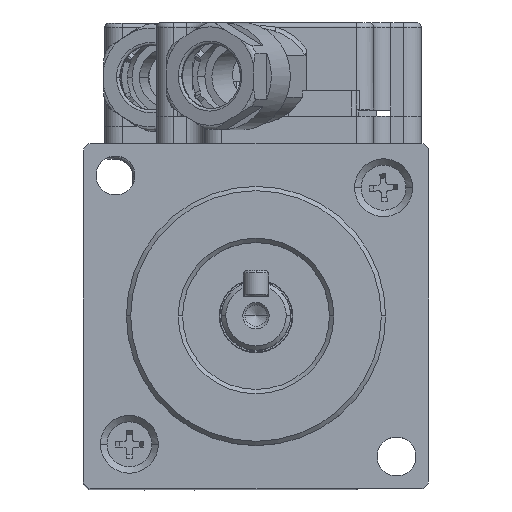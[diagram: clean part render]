
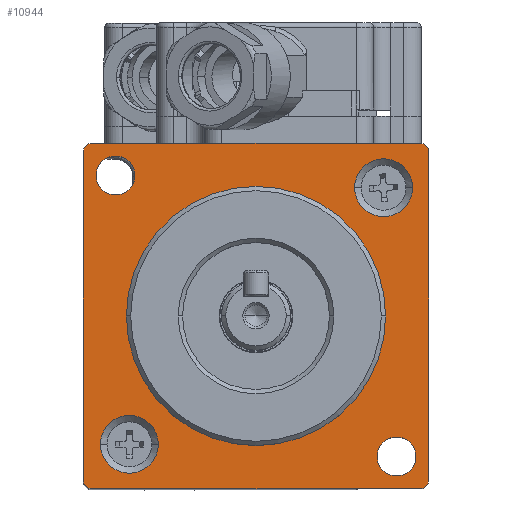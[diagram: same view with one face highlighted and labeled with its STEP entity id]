
A CAD part, top view. The second image highlights one B-rep face of the part: STEP entity #10944.
In plain terms, the highlighted planar face has unit normal (0, 0, 1).
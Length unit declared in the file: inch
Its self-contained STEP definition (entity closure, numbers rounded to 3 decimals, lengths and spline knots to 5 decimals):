
#10372=DIRECTION('',(-1.,0.,0.));
#10373=VECTOR('',#10372,1.49606);
#10374=CARTESIAN_POINT('',(0.74803,0.7874,
0.19685));
#10375=LINE('',#10374,#10373);
#10384=DIRECTION('',(0.,1.,0.));
#10385=VECTOR('',#10384,1.49606);
#10386=CARTESIAN_POINT('',(0.7874,-0.74803,
0.19685));
#10387=LINE('',#10386,#10385);
#10396=DIRECTION('',(1.,0.,0.));
#10397=VECTOR('',#10396,1.49606);
#10398=CARTESIAN_POINT('',(-0.74803,-0.7874,
0.19685));
#10399=LINE('',#10398,#10397);
#10408=DIRECTION('',(0.,-1.,0.));
#10409=VECTOR('',#10408,1.49606);
#10410=CARTESIAN_POINT('',(-0.7874,0.74803,
0.19685));
#10411=LINE('',#10410,#10409);
#10412=CARTESIAN_POINT('',(-0.74803,0.74803,
0.19685));
#10413=DIRECTION('',(0.,0.,-1.));
#10414=DIRECTION('',(-1.,0.,0.));
#10415=AXIS2_PLACEMENT_3D('',#10412,#10413,#10414);
#10417=CARTESIAN_POINT('',(0.74803,0.74803,
0.19685));
#10418=DIRECTION('',(0.,0.,-1.));
#10419=DIRECTION('',(0.,1.,0.));
#10420=AXIS2_PLACEMENT_3D('',#10417,#10418,#10419);
#10422=CARTESIAN_POINT('',(0.74803,-0.74803,
0.19685));
#10423=DIRECTION('',(0.,0.,-1.));
#10424=DIRECTION('',(1.,0.,0.));
#10425=AXIS2_PLACEMENT_3D('',#10422,#10423,#10424);
#10427=CARTESIAN_POINT('',(-0.74803,-0.74803,
0.19685));
#10428=DIRECTION('',(0.,0.,-1.));
#10429=DIRECTION('',(0.,-1.,0.));
#10430=AXIS2_PLACEMENT_3D('',#10427,#10428,#10429);
#10432=CARTESIAN_POINT('',(-0.57686,-0.58452,
0.19685));
#10433=DIRECTION('',(0.,0.,1.));
#10434=DIRECTION('',(1.,0.,0.));
#10435=AXIS2_PLACEMENT_3D('',#10432,#10433,#10434);
#10437=CARTESIAN_POINT('',(-0.57686,-0.58452,
0.19685));
#10438=DIRECTION('',(0.,0.,1.));
#10439=DIRECTION('',(-1.,0.,0.));
#10440=AXIS2_PLACEMENT_3D('',#10437,#10438,#10439);
#10442=CARTESIAN_POINT('',(0.58124,0.58452,
0.19685));
#10443=DIRECTION('',(0.,0.,1.));
#10444=DIRECTION('',(1.,0.,0.));
#10445=AXIS2_PLACEMENT_3D('',#10442,#10443,#10444);
#10447=CARTESIAN_POINT('',(0.58124,0.58452,
0.19685));
#10448=DIRECTION('',(0.,0.,1.));
#10449=DIRECTION('',(-1.,0.,0.));
#10450=AXIS2_PLACEMENT_3D('',#10447,#10448,#10449);
#10452=CARTESIAN_POINT('',(-0.64029,0.64029,
0.19685));
#10453=DIRECTION('',(0.,0.,1.));
#10454=DIRECTION('',(1.,0.,0.));
#10455=AXIS2_PLACEMENT_3D('',#10452,#10453,#10454);
#10457=CARTESIAN_POINT('',(-0.64029,0.64029,
0.19685));
#10458=DIRECTION('',(0.,0.,1.));
#10459=DIRECTION('',(-1.,0.,0.));
#10460=AXIS2_PLACEMENT_3D('',#10457,#10458,#10459);
#10462=CARTESIAN_POINT('',(0.64029,-0.64029,
0.19685));
#10463=DIRECTION('',(0.,0.,1.));
#10464=DIRECTION('',(1.,0.,0.));
#10465=AXIS2_PLACEMENT_3D('',#10462,#10463,#10464);
#10467=CARTESIAN_POINT('',(0.64029,-0.64029,
0.19685));
#10468=DIRECTION('',(0.,0.,1.));
#10469=DIRECTION('',(-1.,0.,0.));
#10470=AXIS2_PLACEMENT_3D('',#10467,#10468,#10469);
#10472=CARTESIAN_POINT('',(0.,0.,0.19685));
#10473=DIRECTION('',(0.,0.,1.));
#10474=DIRECTION('',(-1.,0.,0.));
#10475=AXIS2_PLACEMENT_3D('',#10472,#10473,#10474);
#10477=CARTESIAN_POINT('',(0.,0.,0.19685));
#10478=DIRECTION('',(0.,0.,1.));
#10479=DIRECTION('',(1.,0.,0.));
#10480=AXIS2_PLACEMENT_3D('',#10477,#10478,#10479);
#10664=CARTESIAN_POINT('',(-0.74803,0.7874,
0.19685));
#10665=VERTEX_POINT('',#10664);
#10666=CARTESIAN_POINT('',(-0.7874,0.74803,
0.19685));
#10667=VERTEX_POINT('',#10666);
#10668=CARTESIAN_POINT('',(0.74803,0.7874,
0.19685));
#10669=VERTEX_POINT('',#10668);
#10670=CARTESIAN_POINT('',(0.7874,0.74803,
0.19685));
#10671=VERTEX_POINT('',#10670);
#10672=CARTESIAN_POINT('',(0.7874,-0.74803,
0.19685));
#10673=VERTEX_POINT('',#10672);
#10674=CARTESIAN_POINT('',(0.74803,-0.7874,
0.19685));
#10675=VERTEX_POINT('',#10674);
#10676=CARTESIAN_POINT('',(-0.74803,-0.7874,
0.19685));
#10677=VERTEX_POINT('',#10676);
#10678=CARTESIAN_POINT('',(-0.7874,-0.74803,
0.19685));
#10679=VERTEX_POINT('',#10678);
#10680=CARTESIAN_POINT('',(-0.44497,-0.58452,
0.19685));
#10681=CARTESIAN_POINT('',(-0.70875,-0.58452,
0.19685));
#10682=VERTEX_POINT('',#10680);
#10683=VERTEX_POINT('',#10681);
#10684=CARTESIAN_POINT('',(0.71313,0.58452,
0.19685));
#10685=CARTESIAN_POINT('',(0.44935,0.58452,
0.19685));
#10686=VERTEX_POINT('',#10684);
#10687=VERTEX_POINT('',#10685);
#10688=CARTESIAN_POINT('',(-0.55171,0.64029,
0.19685));
#10689=CARTESIAN_POINT('',(-0.72888,0.64029,
0.19685));
#10690=VERTEX_POINT('',#10688);
#10691=VERTEX_POINT('',#10689);
#10692=CARTESIAN_POINT('',(0.72888,-0.64029,
0.19685));
#10693=CARTESIAN_POINT('',(0.55171,-0.64029,
0.19685));
#10694=VERTEX_POINT('',#10692);
#10695=VERTEX_POINT('',#10693);
#10696=CARTESIAN_POINT('',(-0.59055,0.,0.19685));
#10697=CARTESIAN_POINT('',(0.59055,0.,0.19685));
#10698=VERTEX_POINT('',#10696);
#10699=VERTEX_POINT('',#10697);
#10899=CARTESIAN_POINT('',(-0.74803,0.74803,
0.19685));
#10900=DIRECTION('',(0.,0.,1.));
#10901=DIRECTION('',(1.,0.,0.));
#10902=AXIS2_PLACEMENT_3D('',#10899,#10900,#10901);
#10903=PLANE('',#10902);
#10904=ORIENTED_EDGE('',*,*,#10795,.T.);
#10905=ORIENTED_EDGE('',*,*,#10810,.F.);
#10906=ORIENTED_EDGE('',*,*,#10824,.T.);
#10907=ORIENTED_EDGE('',*,*,#10838,.F.);
#10908=ORIENTED_EDGE('',*,*,#10852,.T.);
#10909=ORIENTED_EDGE('',*,*,#10866,.F.);
#10910=ORIENTED_EDGE('',*,*,#10880,.T.);
#10911=ORIENTED_EDGE('',*,*,#10893,.F.);
#10912=EDGE_LOOP('',(#10904,#10905,#10906,#10907,#10908,#10909,#10910,#10911));
#10913=FACE_OUTER_BOUND('',#10912,.F.);
#10915=ORIENTED_EDGE('',*,*,#10914,.T.);
#10917=ORIENTED_EDGE('',*,*,#10916,.T.);
#10918=EDGE_LOOP('',(#10915,#10917));
#10919=FACE_BOUND('',#10918,.F.);
#10921=ORIENTED_EDGE('',*,*,#10920,.T.);
#10923=ORIENTED_EDGE('',*,*,#10922,.T.);
#10924=EDGE_LOOP('',(#10921,#10923));
#10925=FACE_BOUND('',#10924,.F.);
#10927=ORIENTED_EDGE('',*,*,#10926,.T.);
#10929=ORIENTED_EDGE('',*,*,#10928,.T.);
#10930=EDGE_LOOP('',(#10927,#10929));
#10931=FACE_BOUND('',#10930,.F.);
#10933=ORIENTED_EDGE('',*,*,#10932,.T.);
#10935=ORIENTED_EDGE('',*,*,#10934,.T.);
#10936=EDGE_LOOP('',(#10933,#10935));
#10937=FACE_BOUND('',#10936,.F.);
#10939=ORIENTED_EDGE('',*,*,#10938,.T.);
#10941=ORIENTED_EDGE('',*,*,#10940,.T.);
#10942=EDGE_LOOP('',(#10939,#10941));
#10943=FACE_BOUND('',#10942,.F.);
#10944=ADVANCED_FACE('',(#10913,#10919,#10925,#10931,#10937,#10943),#10903,.T.);
#10416=CIRCLE('',#10415,0.03937);
#10421=CIRCLE('',#10420,0.03937);
#10426=CIRCLE('',#10425,0.03937);
#10431=CIRCLE('',#10430,0.03937);
#10436=CIRCLE('',#10435,0.13189);
#10441=CIRCLE('',#10440,0.13189);
#10446=CIRCLE('',#10445,0.13189);
#10451=CIRCLE('',#10450,0.13189);
#10456=CIRCLE('',#10455,0.08858);
#10461=CIRCLE('',#10460,0.08858);
#10466=CIRCLE('',#10465,0.08858);
#10471=CIRCLE('',#10470,0.08858);
#10476=CIRCLE('',#10475,0.59055);
#10481=CIRCLE('',#10480,0.59055);
#10795=EDGE_CURVE('',#10667,#10665,#10416,.T.);
#10810=EDGE_CURVE('',#10669,#10665,#10375,.T.);
#10824=EDGE_CURVE('',#10669,#10671,#10421,.T.);
#10838=EDGE_CURVE('',#10673,#10671,#10387,.T.);
#10852=EDGE_CURVE('',#10673,#10675,#10426,.T.);
#10866=EDGE_CURVE('',#10677,#10675,#10399,.T.);
#10880=EDGE_CURVE('',#10677,#10679,#10431,.T.);
#10893=EDGE_CURVE('',#10667,#10679,#10411,.T.);
#10914=EDGE_CURVE('',#10682,#10683,#10436,.T.);
#10916=EDGE_CURVE('',#10683,#10682,#10441,.T.);
#10920=EDGE_CURVE('',#10686,#10687,#10446,.T.);
#10922=EDGE_CURVE('',#10687,#10686,#10451,.T.);
#10926=EDGE_CURVE('',#10690,#10691,#10456,.T.);
#10928=EDGE_CURVE('',#10691,#10690,#10461,.T.);
#10932=EDGE_CURVE('',#10694,#10695,#10466,.T.);
#10934=EDGE_CURVE('',#10695,#10694,#10471,.T.);
#10938=EDGE_CURVE('',#10698,#10699,#10476,.T.);
#10940=EDGE_CURVE('',#10699,#10698,#10481,.T.);
